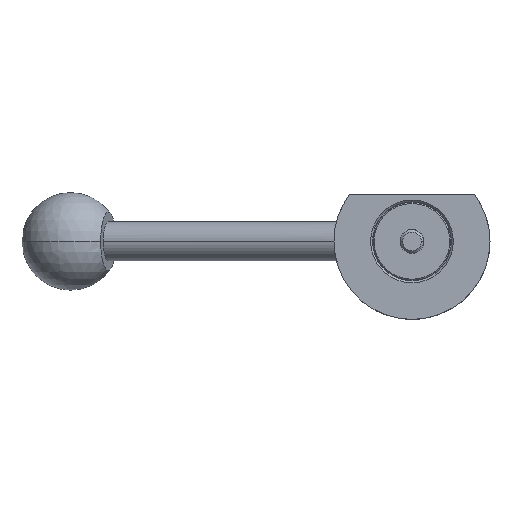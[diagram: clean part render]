
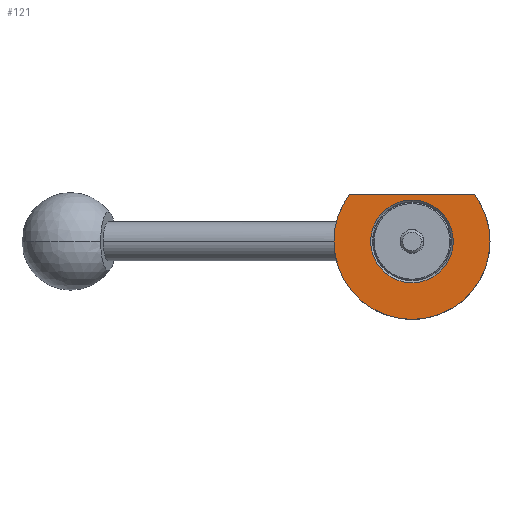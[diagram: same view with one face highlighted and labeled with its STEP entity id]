
A CAD part, front view. The second image highlights one B-rep face of the part: STEP entity #121.
In plain terms, the highlighted planar face has unit normal (0, -1, 0).
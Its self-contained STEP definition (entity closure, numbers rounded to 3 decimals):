
#9 = CARTESIAN_POINT ( 'NONE',  ( 20., -10., 0. ) ) ;
#38 = VERTEX_POINT ( 'NONE', #1282 ) ;
#95 = ORIENTED_EDGE ( 'NONE', *, *, #1267, .F. ) ;
#121 = ADVANCED_FACE ( 'NONE', ( #1443, #1160 ), #1341, .T. ) ;
#188 = VERTEX_POINT ( 'NONE', #1510 ) ;
#213 = VECTOR ( 'NONE', #1097, 1000. ) ;
#225 = ORIENTED_EDGE ( 'NONE', *, *, #1305, .F. ) ;
#231 = CARTESIAN_POINT ( 'NONE',  ( 10.6, -10., 0. ) ) ;
#271 = EDGE_LOOP ( 'NONE', ( #766, #750 ) ) ;
#385 = CARTESIAN_POINT ( 'NONE',  ( -10.6, -10., 0. ) ) ;
#409 = VERTEX_POINT ( 'NONE', #1428 ) ;
#444 = CIRCLE ( 'NONE', #1762, 10.6 ) ;
#445 = CARTESIAN_POINT ( 'NONE',  ( -10.6, -10., 11.999 ) ) ;
#477 = AXIS2_PLACEMENT_3D ( 'NONE', #1869, #1698, #1541 ) ;
#485 = DIRECTION ( 'NONE',  ( -1., 0., 0. ) ) ;
#521 = CARTESIAN_POINT ( 'NONE',  ( 0., -10., 0. ) ) ;
#523 = ORIENTED_EDGE ( 'NONE', *, *, #843, .F. ) ;
#585 = VERTEX_POINT ( 'NONE', #9 ) ;
#586 = CARTESIAN_POINT ( 'NONE',  ( -16.001, -10., 11.999 ) ) ;
#606 = CIRCLE ( 'NONE', #477, 20. ) ;
#640 = CIRCLE ( 'NONE', #1978, 10.6 ) ;
#651 = CARTESIAN_POINT ( 'NONE',  ( 0., -10., 0. ) ) ;
#736 = DIRECTION ( 'NONE',  ( 0., 1., 0. ) ) ;
#750 = ORIENTED_EDGE ( 'NONE', *, *, #1036, .T. ) ;
#766 = ORIENTED_EDGE ( 'NONE', *, *, #860, .T. ) ;
#772 = LINE ( 'NONE', #445, #213 ) ;
#797 = ORIENTED_EDGE ( 'NONE', *, *, #1777, .T. ) ;
#843 = EDGE_CURVE ( 'NONE', #585, #188, #606, .T. ) ;
#860 = EDGE_CURVE ( 'NONE', #1119, #409, #640, .T. ) ;
#879 = DIRECTION ( 'NONE',  ( 0., 1., 0. ) ) ;
#881 = VERTEX_POINT ( 'NONE', #586 ) ;
#1036 = EDGE_CURVE ( 'NONE', #409, #1119, #444, .T. ) ;
#1097 = DIRECTION ( 'NONE',  ( -1., 0., 0. ) ) ;
#1103 = CARTESIAN_POINT ( 'NONE',  ( 0., -10., 0. ) ) ;
#1119 = VERTEX_POINT ( 'NONE', #231 ) ;
#1160 = FACE_OUTER_BOUND ( 'NONE', #2026, .T. ) ;
#1267 = EDGE_CURVE ( 'NONE', #188, #881, #1590, .T. ) ;
#1282 = CARTESIAN_POINT ( 'NONE',  ( 16.001, -10., 11.999 ) ) ;
#1305 = EDGE_CURVE ( 'NONE', #38, #585, #1924, .T. ) ;
#1331 = DIRECTION ( 'NONE',  ( 0., -1., 0. ) ) ;
#1341 = PLANE ( 'NONE',  #1887 ) ;
#1356 = AXIS2_PLACEMENT_3D ( 'NONE', #1103, #1547, #1696 ) ;
#1380 = DIRECTION ( 'NONE',  ( -1., 0., 0. ) ) ;
#1428 = CARTESIAN_POINT ( 'NONE',  ( -10.6, -10., 0. ) ) ;
#1443 = FACE_BOUND ( 'NONE', #271, .T. ) ;
#1510 = CARTESIAN_POINT ( 'NONE',  ( -20., -10., 0. ) ) ;
#1520 = DIRECTION ( 'NONE',  ( -1., 0., 0. ) ) ;
#1541 = DIRECTION ( 'NONE',  ( -1., 0., 0. ) ) ;
#1547 = DIRECTION ( 'NONE',  ( 0., 1., 0. ) ) ;
#1590 = CIRCLE ( 'NONE', #1863, 20. ) ;
#1696 = DIRECTION ( 'NONE',  ( -1., 0., 0. ) ) ;
#1698 = DIRECTION ( 'NONE',  ( 0., 1., 0. ) ) ;
#1762 = AXIS2_PLACEMENT_3D ( 'NONE', #651, #1930, #485 ) ;
#1777 = EDGE_CURVE ( 'NONE', #38, #881, #772, .T. ) ;
#1815 = DIRECTION ( 'NONE',  ( 1., 0., 0. ) ) ;
#1863 = AXIS2_PLACEMENT_3D ( 'NONE', #521, #879, #1520 ) ;
#1869 = CARTESIAN_POINT ( 'NONE',  ( 0., -10., 0. ) ) ;
#1887 = AXIS2_PLACEMENT_3D ( 'NONE', #385, #1331, #1815 ) ;
#1924 = CIRCLE ( 'NONE', #1356, 20. ) ;
#1930 = DIRECTION ( 'NONE',  ( 0., 1., 0. ) ) ;
#1978 = AXIS2_PLACEMENT_3D ( 'NONE', #2053, #736, #1380 ) ;
#2026 = EDGE_LOOP ( 'NONE', ( #225, #797, #95, #523 ) ) ;
#2053 = CARTESIAN_POINT ( 'NONE',  ( 0., -10., 0. ) ) ;
